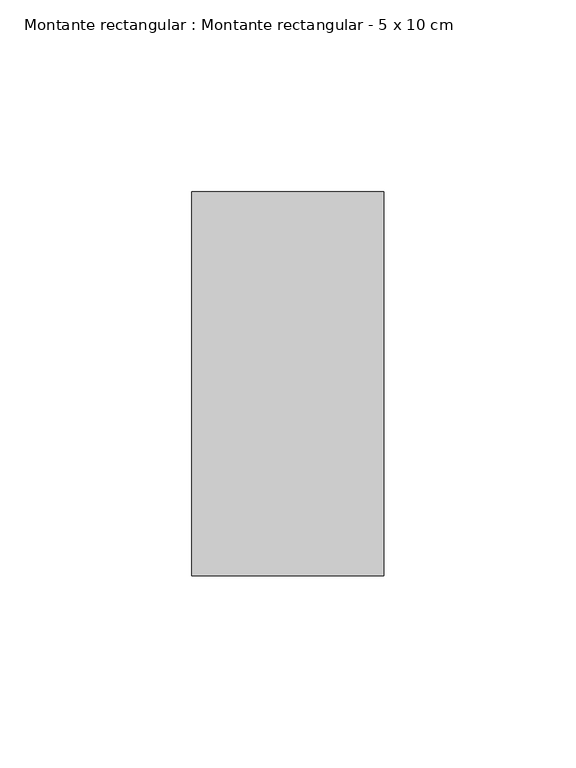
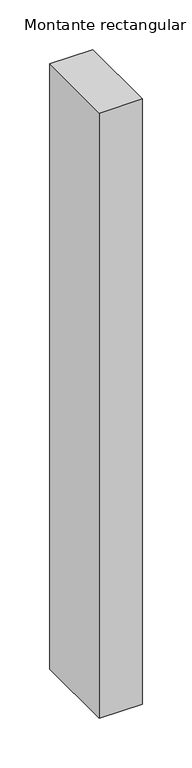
"""IFC4 building model written with IfcOpenShell, lengths in millimetres: member geometry, Montante rectangular : Montante rectangular - 5 x 10 cm."""

from ifc_helpers import new_model, si_unit, frame, origin, place, context, project, spatial, polyline, outline, extrude, source, transform, mapped, element, save


def montante_rectangular_montante_rectangular_5_x_10_cm_4f417427(model_context):
    return source(origin(), model_context, "Body", "SweptSolid", [
        extrude(outline(polyline([(-50.0, 50.0), (0.0, 50.0), (0.0, -50.0), (-50.0, -50.0), (-50.0, 50.0)])), frame((0.0, 0.0, -745.0), z_axis=(0.0, 0.0, 1.0), x_axis=(1.0, 0.0, 0.0)), (0.0, 0.0, 1.0), 745.0),
    ])


if __name__ == "__main__":
    model = new_model("IFC4")
    model_context = context("Model", 3, world=origin())
    ifc_project = project(units=[si_unit("LENGTHUNIT", "METRE", prefix="MILLI")], contexts=[model_context])
    site = spatial("IfcSite", under=ifc_project)
    building = spatial("IfcBuilding", under=site)
    placement = place(None, origin())
    montante_rectangular_montante_rectangular_5_x_10_cm_shape = montante_rectangular_montante_rectangular_5_x_10_cm_4f417427(model_context)
    element("IfcMember", 1, ObjectType="Montante rectangular : Montante rectangular - 5 x 10 cm", at=placement, inside=building, context=model_context, shape_type="MappedRepresentation", body=[
        mapped(montante_rectangular_montante_rectangular_5_x_10_cm_shape, transform((0.0, 0.0, 0.0), x_axis=(1.0, 0.0, 0.0), y_axis=(0.0, 1.0, 0.0), z_axis=(0.0, 0.0, 1.0))),
    ])
    save(model, "model.ifc")
